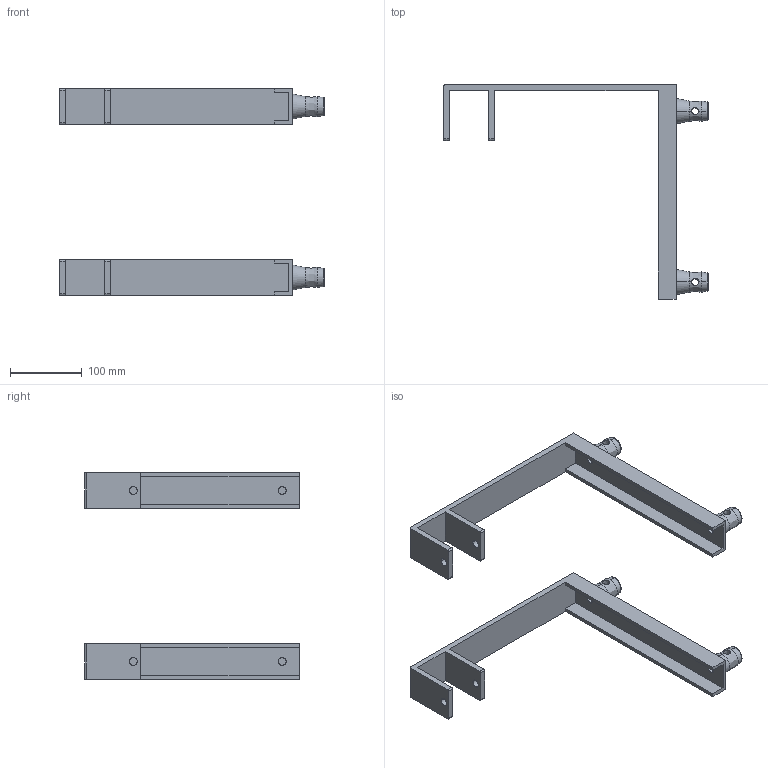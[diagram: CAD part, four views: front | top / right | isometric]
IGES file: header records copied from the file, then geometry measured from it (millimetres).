
Start section: SolidWorks IGES file using analytic representation for surfaces
Global section: file name: K:\BIBLIO\asd_biblio\Accessoires\L290C\L290C.IGS; native system: SolidWorks 2009; preprocessor: SolidWorks 2009; author: des3; date: 091023.164919; units: millimetre
Bounding box: 370 x 300 x 289 mm (x, y, z)
Surface area: 238663.2 mm2 (no closed solid volume)
Topology: 0 solids, 0 shells, 118 faces, 2104 edges, 2104 vertices
Faces by surface type: revolution 66, bspline 52
